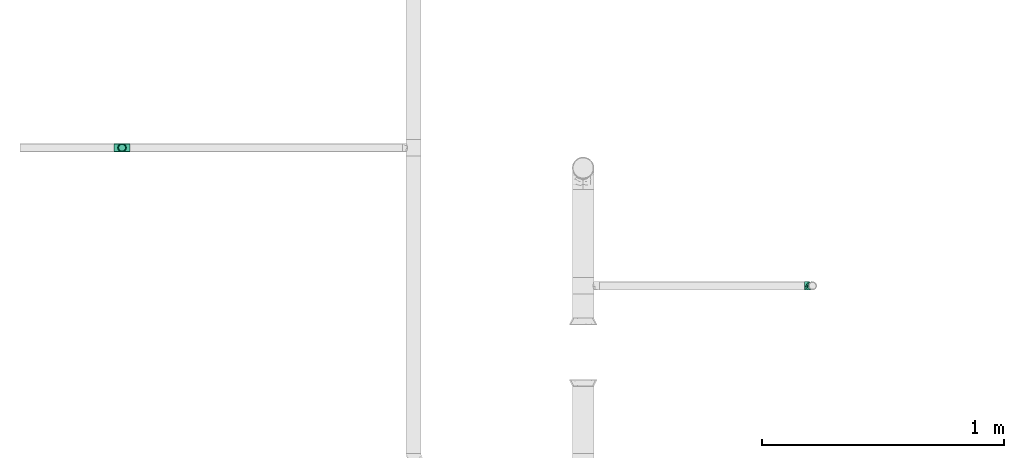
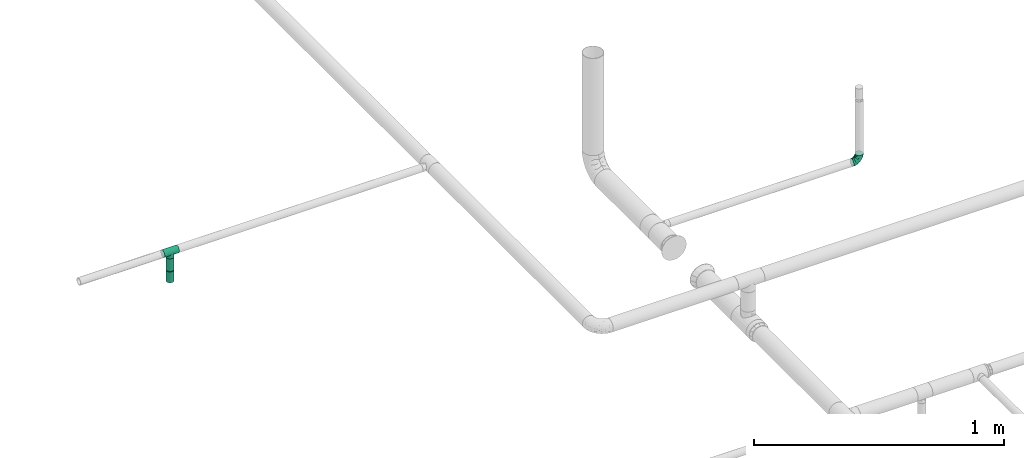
# One storey, part 19 of 45: 2 flow fittings, 1 flow segment, 1 flow terminal.
"""IFC2X3 building model written with IfcOpenShell, lengths in millimetres."""

from ifc_helpers import new_model, entity, si_unit, converted_unit, derived_unit, direction, frame, origin_with_axes, origin_2d_with_axis, place, context, subcontext, project, spatial, hollow_circle, extrude, open_shell, surface_model, source, transform, mapped, type_object, element, save


model = new_model("IFC2X3")

# Units and contexts
model_context = context("Model", 3, precision=0.01, world=frame((0.0, 4.29681676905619e-09, 0.0)), true_north=direction((4.01073788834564e-13, 1.0)))
plan_context = context("Plan", 3, precision=0.01, world=frame((0.0, 4.29681676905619e-09, 0.0)), true_north=direction((4.01073788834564e-13, 1.0)))
body_context = subcontext(model_context, "Body", "Model", "MODEL_VIEW")
ifc_project = project(units=[converted_unit("PLANEANGLEUNIT", "DEGREE", entity("IfcPositiveLengthMeasure", 0.0174532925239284), si_unit("PLANEANGLEUNIT", "RADIAN"), dimensions=[0, 0, 0, 0, 0, 0, 0]), si_unit("AREAUNIT", "SQUARE_METRE"), si_unit("LENGTHUNIT", "METRE", prefix="MILLI"), si_unit("MASSUNIT", "GRAM", prefix="KILO"), si_unit("POWERUNIT", "WATT"), si_unit("PRESSUREUNIT", "PASCAL", prefix="KILO"), si_unit("FORCEUNIT", "NEWTON", prefix="KILO"), si_unit("ELECTRICVOLTAGEUNIT", "VOLT"), si_unit("ELECTRICCURRENTUNIT", "AMPERE"), si_unit("THERMODYNAMICTEMPERATUREUNIT", "DEGREE_CELSIUS"), si_unit("TIMEUNIT", "SECOND"), si_unit("VOLUMEUNIT", "CUBIC_METRE"), derived_unit("LINEARVELOCITYUNIT", [(si_unit("LENGTHUNIT", "METRE"), 1), (si_unit("TIMEUNIT", "SECOND"), -1)]), derived_unit("VOLUMETRICFLOWRATEUNIT", [(si_unit("VOLUMEUNIT", "CUBIC_METRE"), 1), (si_unit("TIMEUNIT", "SECOND"), -1)]), derived_unit("THERMALTRANSMITTANCEUNIT", [(si_unit("POWERUNIT", "WATT"), 1), (si_unit("THERMODYNAMICTEMPERATUREUNIT", "KELVIN"), -1), (si_unit("AREAUNIT", "SQUARE_METRE"), -1)]), derived_unit("SOUNDPRESSUREUNIT", [(si_unit("PRESSUREUNIT", "PASCAL"), 1)])], contexts=[model_context, plan_context])

# Site, building, storey
site_placement = place(None, frame((0.0, -4.29681676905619e-09, 0.0), z_axis=(0.0, 0.0, 1.0), x_axis=(1.0, 0.0, 0.0)))
site = spatial("IfcSite", under=ifc_project, at=site_placement, CompositionType="ELEMENT")
building_placement = place(site_placement, frame((0.0, 4.29681676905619e-09, 0.0), z_axis=(0.0, 0.0, 1.0), x_axis=(1.0, 0.0, 0.0)))
building = spatial("IfcBuilding", under=site, at=building_placement, Name="mc-building", CompositionType="ELEMENT")
storey_placement = place(building_placement, frame((0.0, 0.0, 210200.0), z_axis=(0.0, 0.0, 1.0), x_axis=(1.0, 0.0, 0.0)))
storey = spatial("IfcBuildingStorey", under=building, at=storey_placement, Name="Nivå F - 0,7 m", CompositionType="ELEMENT", Elevation=210200.0)

# Flow fittings
pipe_fitting_type_1 = type_object("IfcPipeFittingType", Name="magi_pipe_fe_elbow_short_001", PredefinedType="BEND")
shared_shape_1 = source(origin_with_axes(), body_context, "Body", "SurfaceModel", [
    surface_model("IfcShellBasedSurfaceModel", [(-33.8, -11.9501, -11.9501), (-33.8, -14.63583, -8.45), (-33.8, -8.45, -14.63583), (-33.8, 0.0, -16.9), (-33.8, -4.37404, -16.32415), (-33.8, -16.32415, -4.37404), (-33.8, -16.9, 0.0), (-33.8, 11.9501, 11.9501), (-33.8, 14.63583, 8.45), (-33.8, 8.45, 14.63583), (-33.8, -11.9501, 11.9501), (-33.8, -8.45, 14.63583), (-33.8, -14.63583, 8.45), (-33.8, -16.32415, 4.37404), (-33.8, -4.37404, 16.32415), (-33.8, 0.0, 16.9), (-33.8, 16.9, 0.0), (-33.8, 16.32415, -4.37404), (-33.8, 16.32415, 4.37404), (-33.8, 4.37404, -16.32415), (-33.8, 8.45, -14.63583), (-33.8, 14.63583, -8.45), (-33.8, 11.9501, -11.9501), (-33.8, 4.37404, 16.32415), (-4.37404, 33.8, -16.32415), (16.9, 33.8, 0.0), (0.0, 33.8, -16.9), (-16.32415, 33.8, -4.37404), (-8.45, 33.8, -14.63583), (-14.63583, 33.8, -8.45), (-11.9501, 33.8, -11.9501), (16.32415, 33.8, 4.37404), (8.45, 33.8, -14.63583), (14.63583, 33.8, -8.45), (11.9501, 33.8, -11.9501), (4.37404, 33.8, -16.32415), (16.32415, 33.8, -4.37404), (-16.32415, 33.8, 4.37404), (-4.37404, 33.8, 16.32415), (-14.63583, 33.8, 8.45), (-8.45, 33.8, 14.63583), (-11.9501, 33.8, 11.9501), (14.63583, 33.8, 8.45), (8.45, 33.8, 14.63583), (11.9501, 33.8, 11.9501), (0.0, 33.8, 16.9), (4.37404, 33.8, 16.32415), (-16.9, 33.8, 0.0), (-24.79389, -13.12945, 9.48721), (-22.19287, -9.75018, 12.59315), (-24.09897, -14.97035, 0.0), (-14.93934, -10.76256, 8.5297), (-22.46095, -14.75051, 5.27077), (14.75051, 22.46094, 5.27077), (11.9251, 13.23888, 4.33236), (13.04069, 14.39795, 0.0), (7.71387, 13.68847, 11.55891), (9.75018, 22.19287, 12.59315), (4.10169, 13.0571, 14.04018), (-24.84007, -6.39063, 15.2048), (-25.81779, -2.23879, 16.61097), (-23.66549, 2.59054, 16.87119), (-26.50418, 14.06512, 11.08152), (-24.21253, 17.66365, 7.72657), (-29.58514, 15.86957, 7.00283), (-6.17382, -7.5455, 0.0), (-13.23888, -11.9251, 4.33236), (-14.39795, -13.04069, 0.0), (-17.81434, 18.87373, 11.97104), (-6.30846, 29.15138, 15.82987), (-2.31622, 25.28002, 16.85849), (-29.23923, 10.23435, 13.77053), (-1.45439, -2.85688, 7.61475), (-0.28326, 0.34872, 10.09509), (-5.74484, -4.04709, 10.4122), (-4.41137, 11.31918, 16.59407), (-8.39727, 3.10034, 15.7812), (-1.72649, 9.1306, 15.53089), (-17.39909, 24.75344, 7.64977), (-26.19233, 20.0512, 0.0), (-28.14518, 17.29657, 4.25857), (-26.05147, 6.6281, 15.96447), (-5.87354, 16.61944, 16.86968), (-12.51807, 12.51807, 16.48937), (-10.06312, 7.38516, 16.81295), (-3.01882, 3.01882, 13.81718), (-13.0571, -4.10169, 14.04018), (-16.82553, -0.15166, 16.38038), (10.76256, 14.93934, 8.5297), (13.12945, 24.79389, 9.48721), (6.39063, 24.84007, 15.2048), (2.23879, 25.81779, 16.61097), (-13.68847, -7.71387, 11.55891), (14.97035, 24.09897, 0.0), (-7.30894, 22.89991, 16.09489), (-10.67958, 26.17414, 14.008), (-12.78295, 18.26924, 15.06066), (-13.88562, 22.45231, 12.93244), (-18.04944, 15.16501, 14.04434), (-23.11658, 20.08178, 4.02986), (-21.84989, 21.84989, 0.0), (-18.55817, 25.48277, 3.93065), (-13.95142, 26.94732, 11.03289), (-18.57098, 7.23906, 16.59756), (-16.58335, 4.14122, 16.89279), (-17.96666, 11.46709, 15.63151), (-9.84453, 17.54304, 16.18938), (0.15166, 16.82553, 16.38038), (-23.27207, 11.47201, 14.23154), (3.84842, 5.86994, 10.70473), (-8.0212, -7.54413, 7.93275), (1.00345, -2.19508, 4.57414), (5.13203, 3.01004, 5.90201), (5.24161, 1.7543, 2.53265), (8.70457, 7.04947, 3.99182), (-20.0512, 26.19233, 0.0), (8.4852, 8.76699, 7.09296), (-4.55488, -6.72064, 4.90681), (2.05031, -2.05031, 0.0), (7.5455, 6.17382, 0.0), (-26.75399, 2.1369, -16.845), (-14.61995, 24.73803, -11.27736), (-28.45274, -13.45335, -9.81895), (-26.00469, 6.63555, -15.96645), (-23.06726, 20.04573, -4.26202), (-13.80647, -4.26506, -14.17873), (-14.67501, -0.21081, -16.07388), (-6.7902, -0.2828, -13.8478), (-24.53586, 11.08096, -14.13417), (-26.72048, 14.00837, -11.05776), (10.0967, 24.44989, -12.75976), (5.83237, 21.40218, -15.03047), (6.66249, 28.54238, -15.38093), (-20.38182, 15.48705, -12.74596), (12.53268, 21.23441, -9.15363), (12.54494, 15.67504, -5.54878), (9.7522, 12.89279, -8.66343), (-15.65186, 19.64213, -13.01327), (-12.03528, 20.66498, -14.67665), (-15.61907, 15.61906, -14.83879), (-25.56551, -15.26206, 0.0), (-24.65452, -15.12934, -5.50955), (13.45335, 28.45274, -9.81895), (15.12934, 24.65452, -5.50955), (-7.35442, -8.31014, -5.65563), (-15.67504, -12.54494, -5.54878), (-24.44989, -10.0967, -12.75976), (0.16522, 0.41303, -9.71728), (-5.70658, -5.33066, -8.89288), (-5.13869, -2.37198, -11.53565), (-21.23441, -12.53268, -9.15363), (0.71146, 7.93863, -14.09382), (0.21081, 14.67501, -16.07388), (3.49291, 14.42772, -14.76381), (-24.89911, -2.13088, -16.591), (-28.54238, -6.66249, -15.38093), (-18.44386, -7.71663, -13.26957), (2.13088, 24.89911, -16.591), (-28.64342, 17.44413, -2.89318), (1.70017, -1.28722, -5.09504), (-16.57067, 26.81947, -7.36596), (-17.69055, 27.4263, -3.76405), (-12.89279, -9.7522, -8.66343), (-5.96611, 5.96611, -15.95814), (-20.53709, 20.09345, -8.28985), (-2.1369, 26.75399, -16.845), (-6.89872, 24.58781, -16.02578), (-10.60739, 26.53157, -13.98044), (-21.40218, -5.83237, -15.03047), (2.93192, 5.89627, -11.55917), (6.89393, 12.61842, -11.82233), (5.58056, 5.95325, -8.79455), (-3.99512, 18.61798, -16.89635), (8.31014, 7.35442, -5.65563), (-9.1383, 9.86148, -16.89041), (-9.99983, 16.02119, -16.39699), (-16.68576, 9.78031, -16.34199), (-27.01915, 16.61158, -7.12979), (15.26206, 25.56551, 0.0), (-18.61798, 3.99512, -16.89635), (-19.37495, 27.82495, 0.0), (-12.61842, -6.89393, -11.82233), (-18.84705, 19.14018, -10.96545)], [open_shell([[[0, 1, 2]], [[3, 4, 2]], [[5, 6, 1]], [[7, 8, 9]], [[10, 11, 12]], [[13, 12, 11]], [[14, 15, 11]], [[16, 17, 18]], [[3, 6, 19]], [[20, 19, 17]], [[20, 17, 21]], [[22, 20, 21]], [[17, 19, 6]], [[2, 1, 6]], [[2, 6, 3]], [[6, 18, 17]], [[23, 18, 6]], [[8, 18, 23]], [[8, 23, 9]], [[13, 23, 6]], [[23, 13, 11]], [[11, 15, 23]], [[24, 25, 26]], [[27, 24, 28]], [[29, 27, 28]], [[29, 28, 30]], [[31, 25, 24]], [[32, 33, 34]], [[32, 35, 26]], [[33, 25, 36]], [[33, 32, 26]], [[25, 33, 26]], [[24, 27, 37]], [[31, 24, 37]], [[38, 37, 39]], [[40, 38, 39]], [[40, 39, 41]], [[31, 37, 38]], [[42, 43, 44]], [[43, 42, 31]], [[43, 45, 46]], [[43, 31, 38]], [[38, 45, 43]], [[37, 27, 47]], [[10, 48, 49]], [[13, 6, 50]], [[51, 48, 52]], [[53, 54, 55]], [[48, 10, 12]], [[13, 52, 12]], [[56, 57, 58]], [[49, 11, 10]], [[49, 59, 11]], [[15, 60, 61]], [[62, 63, 64]], [[65, 66, 67]], [[57, 44, 43]], [[62, 68, 63]], [[38, 69, 70]], [[9, 71, 7]], [[14, 60, 15]], [[72, 73, 74]], [[75, 76, 77]], [[7, 62, 8]], [[39, 37, 78]], [[79, 16, 80]], [[64, 18, 8]], [[15, 61, 23]], [[23, 81, 9]], [[82, 83, 84]], [[74, 85, 86]], [[59, 86, 87]], [[88, 89, 57]], [[90, 43, 46]], [[42, 53, 31]], [[46, 45, 91]], [[54, 53, 88]], [[42, 89, 53]], [[92, 86, 49]], [[89, 42, 44]], [[11, 59, 14]], [[53, 55, 93]], [[93, 31, 53]], [[66, 52, 67]], [[94, 82, 70]], [[95, 96, 94]], [[97, 98, 96]], [[79, 99, 100]], [[40, 41, 95]], [[101, 100, 99]], [[68, 78, 63]], [[38, 40, 69]], [[16, 18, 80]], [[95, 94, 69]], [[78, 101, 99]], [[41, 102, 95]], [[70, 45, 38]], [[97, 95, 102]], [[13, 50, 52]], [[90, 57, 43]], [[57, 90, 58]], [[81, 23, 61]], [[103, 104, 84]], [[105, 81, 103]], [[41, 39, 102]], [[106, 96, 83]], [[94, 106, 82]], [[91, 70, 107]], [[71, 62, 7]], [[62, 108, 98]], [[86, 59, 49]], [[67, 52, 50]], [[60, 59, 87]], [[92, 49, 51]], [[86, 85, 76]], [[91, 90, 46]], [[25, 31, 93]], [[107, 77, 58]], [[107, 58, 90]], [[58, 85, 109]], [[110, 74, 92]], [[72, 74, 110]], [[66, 51, 52]], [[72, 111, 112]], [[113, 114, 112]], [[56, 88, 57]], [[52, 48, 12]], [[49, 48, 51]], [[57, 89, 44]], [[53, 89, 88]], [[103, 81, 61]], [[71, 81, 108]], [[18, 64, 80]], [[63, 78, 99]], [[47, 115, 101]], [[101, 115, 100]], [[39, 78, 102]], [[68, 102, 78]], [[97, 96, 95]], [[105, 98, 108]], [[103, 84, 83]], [[107, 70, 82]], [[76, 84, 87]], [[82, 84, 75]], [[70, 91, 45]], [[90, 91, 107]], [[59, 60, 14]], [[61, 60, 87]], [[73, 85, 74]], [[109, 112, 116]], [[103, 61, 104]], [[105, 103, 83]], [[96, 105, 83]], [[81, 105, 108]], [[96, 98, 105]], [[62, 98, 68]], [[61, 87, 104]], [[87, 84, 104]], [[86, 76, 87]], [[77, 76, 85]], [[58, 77, 85]], [[75, 77, 107]], [[82, 75, 107]], [[76, 75, 84]], [[81, 71, 9]], [[62, 71, 108]], [[95, 69, 40]], [[70, 69, 94]], [[62, 64, 8]], [[80, 63, 99]], [[63, 80, 64]], [[80, 99, 79]], [[66, 65, 117]], [[110, 66, 117]], [[112, 114, 116]], [[118, 117, 65]], [[110, 92, 51]], [[112, 111, 113]], [[119, 55, 54]], [[74, 86, 92]], [[58, 109, 56]], [[116, 56, 109]], [[66, 110, 51]], [[72, 110, 117]], [[111, 72, 117]], [[73, 112, 109]], [[117, 118, 111]], [[113, 111, 118]], [[118, 119, 113]], [[114, 119, 54]], [[119, 114, 113]], [[116, 54, 88]], [[54, 116, 114]], [[116, 88, 56]], [[112, 73, 72]], [[85, 73, 109]], [[78, 37, 101]], [[47, 101, 37]], [[102, 68, 97]], [[97, 68, 98]], [[82, 106, 83]], [[94, 96, 106]], [[19, 120, 3]], [[29, 30, 121]], [[0, 122, 1]], [[20, 123, 19]], [[100, 124, 79]], [[125, 126, 127]], [[128, 22, 129]], [[130, 131, 132]], [[128, 129, 133]], [[134, 135, 136]], [[137, 138, 139]], [[128, 20, 22]], [[67, 140, 141]], [[134, 142, 143]], [[141, 5, 1]], [[144, 65, 145]], [[146, 0, 2]], [[147, 148, 149]], [[145, 141, 150]], [[151, 152, 153]], [[154, 4, 3]], [[2, 155, 146]], [[150, 146, 156]], [[155, 2, 4]], [[143, 135, 134]], [[35, 157, 26]], [[16, 79, 158]], [[148, 159, 144]], [[160, 161, 27]], [[145, 162, 144]], [[163, 152, 151]], [[27, 29, 160]], [[121, 164, 160]], [[32, 34, 130]], [[26, 165, 24]], [[24, 165, 166]], [[142, 34, 33]], [[30, 28, 167]], [[124, 161, 164]], [[157, 35, 132]], [[155, 154, 168]], [[123, 20, 128]], [[169, 170, 171]], [[172, 157, 152]], [[24, 166, 28]], [[132, 35, 32]], [[142, 130, 34]], [[168, 154, 126]], [[136, 135, 173]], [[133, 137, 139]], [[22, 21, 129]], [[170, 131, 130]], [[33, 36, 143]], [[172, 174, 175]], [[176, 123, 128]], [[158, 177, 17]], [[135, 55, 119]], [[167, 28, 166]], [[175, 166, 172]], [[137, 167, 138]], [[122, 141, 1]], [[140, 6, 5]], [[36, 25, 178]], [[170, 130, 134]], [[152, 157, 131]], [[165, 157, 172]], [[153, 170, 151]], [[152, 163, 174]], [[168, 125, 156]], [[122, 146, 150]], [[120, 154, 3]], [[179, 174, 126]], [[179, 126, 154]], [[126, 163, 127]], [[162, 145, 150]], [[140, 5, 141]], [[36, 178, 143]], [[55, 143, 178]], [[177, 129, 21]], [[128, 133, 139]], [[176, 128, 139]], [[120, 123, 179]], [[121, 160, 29]], [[161, 100, 180]], [[166, 175, 138]], [[121, 30, 167]], [[161, 47, 27]], [[79, 124, 158]], [[124, 164, 177]], [[161, 124, 100]], [[136, 171, 170]], [[127, 163, 151]], [[147, 171, 159]], [[148, 144, 162]], [[127, 151, 169]], [[127, 181, 125]], [[129, 177, 164]], [[21, 17, 177]], [[159, 65, 144]], [[67, 141, 145]], [[143, 55, 135]], [[135, 119, 173]], [[123, 120, 19]], [[154, 120, 179]], [[157, 165, 26]], [[166, 165, 172]], [[172, 152, 174]], [[176, 139, 175]], [[126, 174, 163]], [[176, 174, 179]], [[174, 176, 175]], [[123, 176, 179]], [[150, 181, 162]], [[127, 149, 181]], [[181, 148, 162]], [[159, 148, 147]], [[171, 136, 173]], [[170, 134, 136]], [[159, 171, 173]], [[171, 147, 169]], [[169, 147, 149]], [[151, 170, 169]], [[164, 182, 129]], [[182, 121, 137]], [[181, 149, 148]], [[169, 149, 127]], [[182, 137, 133]], [[167, 137, 121]], [[166, 138, 167]], [[175, 139, 138]], [[129, 182, 133]], [[121, 182, 164]], [[161, 160, 164]], [[47, 161, 180]], [[177, 158, 124]], [[16, 158, 17]], [[130, 132, 32]], [[157, 132, 131]], [[143, 142, 33]], [[130, 142, 134]], [[154, 155, 4]], [[146, 155, 168]], [[146, 122, 0]], [[141, 122, 150]], [[152, 131, 153]], [[159, 119, 118]], [[67, 145, 65]], [[170, 153, 131]], [[119, 159, 173]], [[159, 118, 65]], [[156, 125, 181]], [[126, 125, 168]], [[150, 156, 181]], [[168, 156, 146]]])]),
])
flow_fitting_1_placement = place(storey_placement, frame((325066.3677, 463153.36146, 2938.0), z_axis=(0.0, 1.0, 0.0), x_axis=(0.0, 0.0, -1.0)))
element("IfcFlowFitting", 1, at=flow_fitting_1_placement, inside=storey, type_object=pipe_fitting_type_1, Name="magi_pipe_fe_elbow_short_001", context=body_context, shape_type="MappedRepresentation", body=[
    mapped(shared_shape_1, transform((0.0, 0.0, 0.0), scale=1.0)),
])
pipe_fitting_type_2 = type_object("IfcPipeFittingType", Name="magi_pipe_fe_tee_centric_90_001", PredefinedType="JUNCTION")
shared_shape_2 = source(origin_with_axes(), body_context, "Body", "SurfaceModel", [
    surface_model("IfcShellBasedSurfaceModel", [(-33.8, -8.45, 14.63583), (-33.8, 0.0, 16.9), (-33.8, 8.45, 14.63583), (-33.8, -4.37404, -16.32415), (-33.8, 16.32415, 4.37404), (-33.8, 0.0, -16.9), (-33.8, -11.9501, -11.9501), (-33.8, -8.45, -14.63583), (-33.8, -14.63583, -8.45), (-33.8, -16.32415, -4.37404), (-33.8, 16.9, 0.0), (-33.8, 8.45, -14.63583), (-33.8, 14.63583, -8.45), (-33.8, 11.9501, -11.9501), (-33.8, 4.37404, -16.32415), (-33.8, 16.32415, -4.37404), (-33.8, -16.32415, 4.37404), (-33.8, -14.63583, 8.45), (-33.8, -11.9501, 11.9501), (-33.8, -4.37404, 16.32415), (-33.8, 14.63583, 8.45), (-33.8, 11.9501, 11.9501), (-33.8, 4.37404, 16.32415), (-33.8, -16.9, 0.0), (33.8, 0.0, -16.9), (33.8, 14.63583, -8.45), (33.8, -4.37404, -16.32415), (33.8, -8.45, -14.63583), (33.8, -14.63583, -8.45), (33.8, -16.32415, -4.37404), (33.8, -11.9501, -11.9501), (33.8, -8.45, 14.63583), (33.8, 4.37404, -16.32415), (33.8, 8.45, -14.63583), (33.8, 11.9501, -11.9501), (33.8, 16.9, 0.0), (33.8, 16.32415, -4.37404), (33.8, -16.32415, 4.37404), (33.8, -14.63583, 8.45), (33.8, 8.45, 14.63583), (33.8, -11.9501, 11.9501), (33.8, -4.37404, 16.32415), (33.8, 11.9501, 11.9501), (33.8, 14.63583, 8.45), (33.8, 16.32415, 4.37404), (33.8, 4.37404, 16.32415), (33.8, 0.0, 16.9), (33.8, -16.9, 0.0), (16.28698, 16.28698, 4.51047), (16.9, 16.9, 0.0), (14.62704, 14.62704, 8.4652), (9.47213, 9.47213, 13.99602), (12.26343, 12.26343, 11.62834), (-16.28698, 16.28698, 4.51047), (-16.9, 16.9, 0.0), (-14.62704, 14.62704, 8.4652), (-9.47213, 9.47213, 13.99602), (-12.26343, 12.26343, 11.62834), (-6.42894, 6.42894, 15.62942), (6.42894, 6.42894, 15.62942), (0.0, 0.0, 16.9), (3.24522, 3.24522, 16.58549), (-3.24522, 3.24522, 16.58549), (3.24522, 3.24522, -16.58549), (0.0, 0.0, -16.9), (-6.42894, 6.42894, -15.62942), (-3.24522, 3.24522, -16.58549), (6.42894, 6.42894, -15.62942), (9.47213, 9.47213, -13.99602), (12.26343, 12.26343, -11.62834), (14.62704, 14.62704, -8.4652), (16.28698, 16.28698, -4.51047), (-9.47213, 9.47213, -13.99602), (-12.26343, 12.26343, -11.62834), (-16.28698, 16.28698, -4.51047), (-14.62704, 14.62704, -8.4652), (0.0, 25.35, -16.9), (-16.9, 25.35, 0.0), (4.37404, 25.35, -16.32415), (8.45, 25.35, -14.63583), (14.63583, 25.35, -8.45), (16.32415, 25.35, -4.37404), (11.9501, 25.35, -11.9501), (16.9, 25.35, 0.0), (-11.9501, 25.35, -11.9501), (-14.63583, 25.35, -8.45), (-8.45, 25.35, -14.63583), (-4.37404, 25.35, -16.32415), (-16.32415, 25.35, -4.37404), (16.32415, 25.35, 4.37404), (8.45, 25.35, 14.63583), (14.63583, 25.35, 8.45), (-8.45, 25.35, 14.63583), (11.9501, 25.35, 11.9501), (4.37404, 25.35, 16.32415), (-14.63583, 25.35, 8.45), (-11.9501, 25.35, 11.9501), (-16.32415, 25.35, 4.37404), (-4.37404, 25.35, 16.32415), (0.0, 25.35, 16.9)], [open_shell([[[0, 1, 2]], [[3, 4, 5]], [[6, 3, 7]], [[8, 9, 3]], [[8, 3, 6]], [[10, 5, 4]], [[11, 12, 13]], [[11, 14, 5]], [[5, 15, 12]], [[12, 11, 5]], [[15, 5, 10]], [[4, 3, 9]], [[9, 16, 17]], [[4, 9, 17]], [[0, 2, 17]], [[0, 17, 18]], [[1, 0, 19]], [[20, 2, 21]], [[2, 20, 4]], [[2, 1, 22]], [[2, 4, 17]], [[16, 9, 23]], [[24, 25, 26]], [[27, 26, 28]], [[26, 29, 28]], [[30, 27, 28]], [[25, 31, 26]], [[32, 33, 24]], [[33, 34, 24]], [[35, 31, 36]], [[25, 24, 34]], [[31, 25, 36]], [[31, 29, 26]], [[31, 37, 29]], [[38, 37, 31]], [[35, 39, 31]], [[40, 38, 31]], [[41, 31, 39]], [[42, 39, 43]], [[44, 43, 39]], [[45, 46, 39]], [[39, 35, 44]], [[39, 46, 41]], [[29, 37, 47]], [[48, 43, 44]], [[49, 44, 35]], [[48, 44, 49]], [[48, 50, 43]], [[51, 39, 42]], [[52, 43, 50]], [[42, 52, 51]], [[42, 43, 52]], [[4, 53, 54]], [[10, 4, 54]], [[20, 53, 4]], [[20, 55, 53]], [[21, 56, 57]], [[57, 20, 21]], [[2, 56, 21]], [[55, 20, 57]], [[58, 56, 2]], [[59, 39, 51]], [[60, 46, 61]], [[61, 45, 59]], [[39, 59, 45]], [[46, 45, 61]], [[41, 46, 60]], [[16, 37, 38]], [[40, 31, 18]], [[38, 40, 17]], [[0, 31, 41]], [[47, 37, 23]], [[1, 60, 62]], [[58, 22, 62]], [[1, 62, 22]], [[2, 22, 58]], [[1, 19, 60]], [[60, 19, 41]], [[41, 19, 0]], [[18, 31, 0]], [[40, 18, 17]], [[38, 17, 16]], [[16, 23, 37]], [[30, 28, 8]], [[29, 47, 23]], [[7, 27, 30]], [[29, 9, 28]], [[63, 32, 24]], [[26, 64, 24]], [[63, 24, 64]], [[3, 26, 27]], [[26, 3, 64]], [[7, 30, 6]], [[8, 28, 9]], [[6, 30, 8]], [[29, 23, 9]], [[14, 65, 66]], [[64, 3, 5]], [[14, 66, 5]], [[14, 11, 65]], [[27, 7, 3]], [[66, 64, 5]], [[67, 32, 63]], [[68, 34, 33]], [[34, 68, 69]], [[69, 70, 25]], [[25, 34, 69]], [[67, 68, 33]], [[49, 35, 36]], [[25, 71, 36]], [[49, 36, 71]], [[70, 71, 25]], [[65, 11, 72]], [[11, 13, 72]], [[73, 72, 13]], [[12, 73, 13]], [[15, 54, 74]], [[12, 74, 75]], [[12, 15, 74]], [[10, 54, 15]], [[73, 12, 75]], [[32, 67, 33]], [[76, 77, 78]], [[79, 78, 80]], [[78, 81, 80]], [[82, 79, 80]], [[78, 77, 83]], [[84, 85, 86]], [[76, 87, 86]], [[88, 77, 85]], [[86, 85, 77]], [[86, 77, 76]], [[83, 81, 78]], [[89, 83, 90]], [[91, 89, 90]], [[92, 90, 83]], [[93, 91, 90]], [[94, 90, 92]], [[95, 96, 97]], [[92, 97, 96]], [[98, 99, 92]], [[92, 77, 97]], [[92, 99, 94]], [[83, 77, 92]], [[54, 97, 77]], [[97, 54, 53]], [[57, 96, 95]], [[56, 92, 96]], [[53, 95, 97]], [[98, 92, 58]], [[95, 53, 55]], [[95, 55, 57]], [[92, 56, 58]], [[62, 60, 99]], [[62, 98, 58]], [[56, 96, 57]], [[99, 98, 62]], [[99, 61, 94]], [[94, 59, 90]], [[48, 89, 91]], [[91, 93, 52]], [[90, 51, 93]], [[83, 89, 49]], [[94, 61, 59]], [[90, 59, 51]], [[89, 48, 49]], [[91, 52, 50]], [[91, 50, 48]], [[52, 93, 51]], [[60, 61, 99]], [[49, 81, 83]], [[81, 49, 71]], [[69, 82, 80]], [[68, 79, 82]], [[71, 80, 81]], [[78, 79, 67]], [[80, 71, 70]], [[80, 70, 69]], [[79, 68, 67]], [[63, 64, 76]], [[63, 78, 67]], [[68, 82, 69]], [[76, 78, 63]], [[76, 66, 87]], [[87, 65, 86]], [[74, 88, 85]], [[84, 73, 85]], [[84, 86, 72]], [[77, 88, 54]], [[87, 66, 65]], [[86, 65, 72]], [[88, 74, 54]], [[85, 73, 75]], [[85, 75, 74]], [[73, 84, 72]], [[64, 66, 76]]])]),
])
flow_fitting_2_placement = place(storey_placement, frame((322215.87674, 463723.25463, 3145.0), z_axis=(0.0, 1.0, 0.0), x_axis=(1.0, 0.0, 0.0)))
element("IfcFlowFitting", 2, at=flow_fitting_2_placement, inside=storey, type_object=pipe_fitting_type_2, Name="magi_pipe_fe_tee_centric_90_001", context=body_context, shape_type="MappedRepresentation", body=[
    mapped(shared_shape_2, transform((0.0, 0.0, 0.0), scale=1.0)),
])

# Flow segment
pipe_segment_type = type_object("IfcPipeSegmentType", Name="Stålrør normaltykke", PredefinedType="RIGIDSEGMENT")
shared_shape_3 = source(origin_with_axes(), body_context, "Body", "SweptSolid", [
    extrude(hollow_circle(Radius=16.9, WallThickness=2.0, at=origin_2d_with_axis()), frame((0.0, 0.0, 0.0), z_axis=(1.0, 0.0, 0.0), x_axis=(0.0, 1.0, 0.0)), (0.0, 0.0, 1.0), 60.7),
])
flow_segment_placement = place(storey_placement, frame((322215.87674, 463723.25463, 3119.64999999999), z_axis=(0.0, -1.0, 0.0), x_axis=(0.0, 0.0, -1.0)))
element("IfcFlowSegment", 3, at=flow_segment_placement, inside=storey, type_object=pipe_segment_type, Name="Stålrør normaltykke", context=body_context, shape_type="MappedRepresentation", body=[
    mapped(shared_shape_3, transform((0.0, 0.0, 0.0), scale=1.0)),
])

# Flow terminal
fire_suppression_terminal_type = type_object("IfcFireSuppressionTerminalType", Name="SP-15-K80-68DGR-STD-HIMLING", PredefinedType="NOTDEFINED")
shared_shape_4 = source(origin_with_axes(), body_context, "Body", "SurfaceModel", [
    surface_model("IfcShellBasedSurfaceModel", [(15.45481, -4.1411, 53.0), (13.85641, -8.0, 53.0), (15.45481, -4.1411, 0.0), (16.0, 0.0, 0.0), (16.0, 0.0, 53.0), (15.45481, 4.1411, 0.0), (13.85641, 8.0, 53.0), (15.45481, 4.1411, 53.0), (11.31371, 11.31371, 53.0), (8.0, 13.85641, 53.0), (4.1411, 15.45481, 53.0), (-8.0, 13.85641, 53.0), (-4.1411, 15.45481, 53.0), (0.0, 16.0, 53.0), (-11.31371, 11.31371, 53.0), (-13.85641, 8.0, 53.0), (-15.45481, 4.1411, 53.0), (11.31371, -11.31371, 53.0), (-16.0, 0.0, 53.0), (0.0, -16.0, 53.0), (4.1411, -15.45481, 53.0), (8.0, -13.85641, 53.0), (-13.85641, -8.0, 53.0), (-11.31371, -11.31371, 53.0), (-15.45481, -4.1411, 53.0), (-8.0, -13.85641, 53.0), (-4.1411, -15.45481, 53.0), (8.0, -13.85641, 0.0), (4.1411, -15.45481, 0.0), (0.0, -16.0, 0.0), (-4.1411, -15.45481, 0.0), (13.85641, -8.0, 0.0), (11.31371, -11.31371, 0.0), (-16.0, 0.0, 0.0), (-8.0, -13.85641, 0.0), (-11.31371, -11.31371, 0.0), (-13.85641, -8.0, 0.0), (-15.45481, -4.1411, 0.0), (4.1411, 15.45481, 0.0), (13.85641, 8.0, 0.0), (8.0, 13.85641, 0.0), (11.31371, 11.31371, 0.0), (-15.45481, 4.1411, 0.0), (-11.31371, 11.31371, 0.0), (-8.0, 13.85641, 0.0), (-13.85641, 8.0, 0.0), (-4.1411, 15.45481, 0.0), (0.0, 16.0, 0.0)], [open_shell([[[0, 1, 2]], [[3, 4, 0]], [[5, 6, 7]], [[7, 4, 3]], [[8, 9, 10]], [[8, 10, 11]], [[8, 4, 7]], [[6, 8, 7]], [[4, 8, 11]], [[12, 11, 13]], [[11, 10, 13]], [[14, 15, 11]], [[16, 11, 15]], [[11, 16, 4]], [[16, 0, 4]], [[17, 1, 0]], [[18, 17, 16]], [[19, 20, 21]], [[18, 21, 17]], [[21, 18, 19]], [[22, 23, 24]], [[18, 24, 23]], [[25, 26, 23]], [[18, 23, 26]], [[26, 19, 18]], [[0, 16, 17]], [[27, 28, 29]], [[27, 29, 30]], [[2, 31, 32]], [[32, 27, 33]], [[2, 32, 33]], [[34, 35, 30]], [[36, 30, 35]], [[36, 37, 30]], [[37, 27, 30]], [[37, 33, 27]], [[33, 5, 2]], [[38, 5, 33]], [[39, 5, 38]], [[38, 40, 41]], [[39, 38, 41]], [[33, 42, 38]], [[43, 44, 45]], [[42, 45, 44]], [[46, 47, 44]], [[38, 42, 44]], [[44, 47, 38]], [[5, 3, 2]], [[45, 42, 16]], [[45, 15, 43]], [[46, 44, 11]], [[14, 44, 43]], [[47, 46, 12]], [[33, 18, 42]], [[18, 16, 42]], [[16, 15, 45]], [[15, 14, 43]], [[44, 14, 11]], [[11, 12, 46]], [[12, 13, 47]], [[40, 38, 10]], [[40, 9, 41]], [[5, 39, 6]], [[8, 39, 41]], [[3, 5, 7]], [[13, 10, 38]], [[10, 9, 40]], [[9, 8, 41]], [[8, 6, 39]], [[47, 13, 38]], [[2, 3, 0]], [[31, 2, 1]], [[28, 27, 21]], [[29, 28, 20]], [[1, 17, 32]], [[17, 27, 32]], [[21, 27, 17]], [[21, 20, 28]], [[31, 1, 32]], [[20, 19, 29]], [[34, 30, 26]], [[34, 25, 35]], [[37, 36, 22]], [[23, 36, 35]], [[33, 37, 24]], [[19, 26, 30]], [[26, 25, 34]], [[25, 23, 35]], [[23, 22, 36]], [[37, 22, 24]], [[24, 18, 33]], [[29, 19, 30]]])]),
])
flow_terminal_placement = place(storey_placement, frame((322215.87674, 463723.25463, 3055.0), z_axis=(0.0, 0.0, -1.0), x_axis=(1.0, 0.0, 0.0)))
element("IfcFlowTerminal", 4, at=flow_terminal_placement, inside=storey, type_object=fire_suppression_terminal_type, Name="SP-15-K80-68DGR-STD-HIMLING", context=body_context, shape_type="MappedRepresentation", body=[
    mapped(shared_shape_4, transform((0.0, 0.0, 0.0), scale=1.0)),
])

save(model, "model.ifc")
